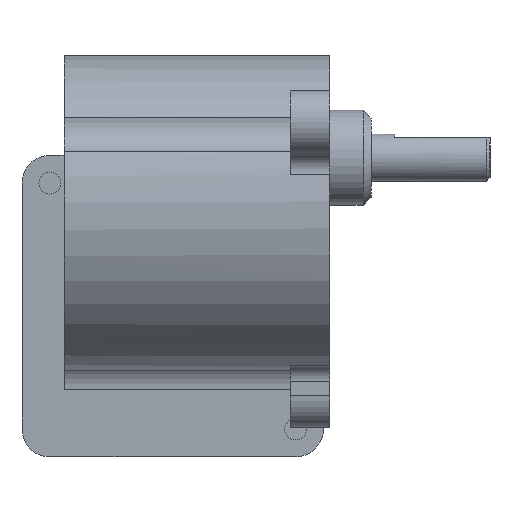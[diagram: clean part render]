
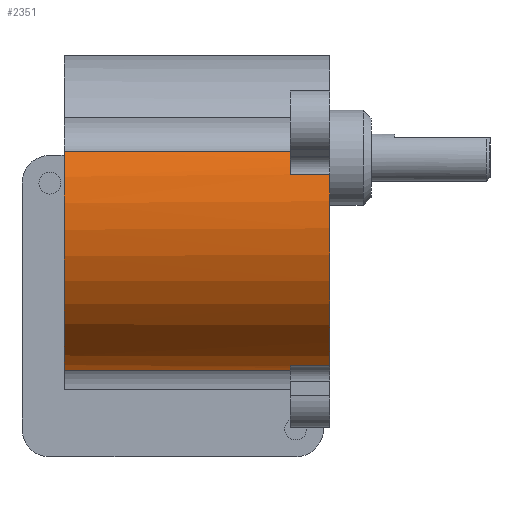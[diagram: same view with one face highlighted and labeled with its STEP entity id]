
A CAD part, left-side view. The second image highlights one B-rep face of the part: STEP entity #2351.
In plain terms, the highlighted cylindrical face has radius 20 mm (diameter 40 mm), a partial arc.
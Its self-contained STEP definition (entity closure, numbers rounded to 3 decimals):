
#152=CYLINDRICAL_SURFACE('',#2603,20.);
#222=FACE_OUTER_BOUND('',#369,.T.);
#369=EDGE_LOOP('',(#1636,#1637,#1638,#1639,#1640,#1641,#1642,#1643));
#559=CIRCLE('',#2604,20.);
#560=CIRCLE('',#2605,20.);
#561=CIRCLE('',#2606,20.);
#562=CIRCLE('',#2607,20.);
#717=LINE('',#3741,#882);
#719=LINE('',#3749,#884);
#720=LINE('',#3753,#885);
#721=LINE('',#3757,#886);
#882=VECTOR('',#2947,10.);
#884=VECTOR('',#2955,10.);
#885=VECTOR('',#2958,10.);
#886=VECTOR('',#2961,10.);
#1055=VERTEX_POINT('',#3738);
#1056=VERTEX_POINT('',#3740);
#1058=VERTEX_POINT('',#3746);
#1059=VERTEX_POINT('',#3748);
#1060=VERTEX_POINT('',#3750);
#1061=VERTEX_POINT('',#3752);
#1062=VERTEX_POINT('',#3754);
#1063=VERTEX_POINT('',#3756);
#1285=EDGE_CURVE('',#1055,#1056,#717,.T.);
#1288=EDGE_CURVE('',#1055,#1058,#559,.T.);
#1289=EDGE_CURVE('',#1058,#1059,#719,.T.);
#1290=EDGE_CURVE('',#1059,#1060,#560,.T.);
#1291=EDGE_CURVE('',#1060,#1061,#720,.T.);
#1292=EDGE_CURVE('',#1061,#1062,#561,.T.);
#1293=EDGE_CURVE('',#1063,#1062,#721,.T.);
#1294=EDGE_CURVE('',#1056,#1063,#562,.T.);
#1636=ORIENTED_EDGE('',*,*,#1285,.F.);
#1637=ORIENTED_EDGE('',*,*,#1288,.T.);
#1638=ORIENTED_EDGE('',*,*,#1289,.T.);
#1639=ORIENTED_EDGE('',*,*,#1290,.T.);
#1640=ORIENTED_EDGE('',*,*,#1291,.T.);
#1641=ORIENTED_EDGE('',*,*,#1292,.T.);
#1642=ORIENTED_EDGE('',*,*,#1293,.F.);
#1643=ORIENTED_EDGE('',*,*,#1294,.F.);
#2351=ADVANCED_FACE('',(#222),#152,.T.);
#2603=AXIS2_PLACEMENT_3D('',#3745,#2951,#2952);
#2604=AXIS2_PLACEMENT_3D('',#3747,#2953,#2954);
#2605=AXIS2_PLACEMENT_3D('',#3751,#2956,#2957);
#2606=AXIS2_PLACEMENT_3D('',#3755,#2959,#2960);
#2607=AXIS2_PLACEMENT_3D('',#3758,#2962,#2963);
#2947=DIRECTION('',(0.,-1.,0.));
#2951=DIRECTION('center_axis',(0.,1.,0.));
#2952=DIRECTION('ref_axis',(-0.866,0.,-0.5));
#2953=DIRECTION('center_axis',(0.,1.,0.));
#2954=DIRECTION('ref_axis',(1.,0.,0.));
#2955=DIRECTION('',(0.,1.,0.));
#2956=DIRECTION('center_axis',(0.,-1.,0.));
#2957=DIRECTION('ref_axis',(1.,0.,0.));
#2958=DIRECTION('',(0.,-1.,0.));
#2959=DIRECTION('center_axis',(0.,1.,0.));
#2960=DIRECTION('ref_axis',(1.,0.,0.));
#2961=DIRECTION('',(0.,1.,0.));
#2962=DIRECTION('center_axis',(0.,-1.,0.));
#2963=DIRECTION('ref_axis',(1.,0.,0.));
#3738=CARTESIAN_POINT('',(-19.391,5.,4.897));
#3740=CARTESIAN_POINT('',(-19.391,0.,4.897));
#3741=CARTESIAN_POINT('',(-19.391,0.,4.897));
#3745=CARTESIAN_POINT('Origin',(0.,0.,0.));
#3746=CARTESIAN_POINT('',(-18.42,5.,7.791));
#3747=CARTESIAN_POINT('Origin',(0.,5.,0.));
#3748=CARTESIAN_POINT('',(-18.42,33.5,7.791));
#3749=CARTESIAN_POINT('',(-18.42,33.5,7.791));
#3750=CARTESIAN_POINT('',(-2.462,33.5,-19.848));
#3751=CARTESIAN_POINT('Origin',(0.,33.5,0.));
#3752=CARTESIAN_POINT('',(-2.462,5.,-19.848));
#3753=CARTESIAN_POINT('',(-2.462,33.5,-19.848));
#3754=CARTESIAN_POINT('',(-5.455,5.,-19.242));
#3755=CARTESIAN_POINT('Origin',(0.,5.,0.));
#3756=CARTESIAN_POINT('',(-5.455,0.,-19.242));
#3757=CARTESIAN_POINT('',(-5.455,0.,-19.242));
#3758=CARTESIAN_POINT('Origin',(0.,0.,0.));
